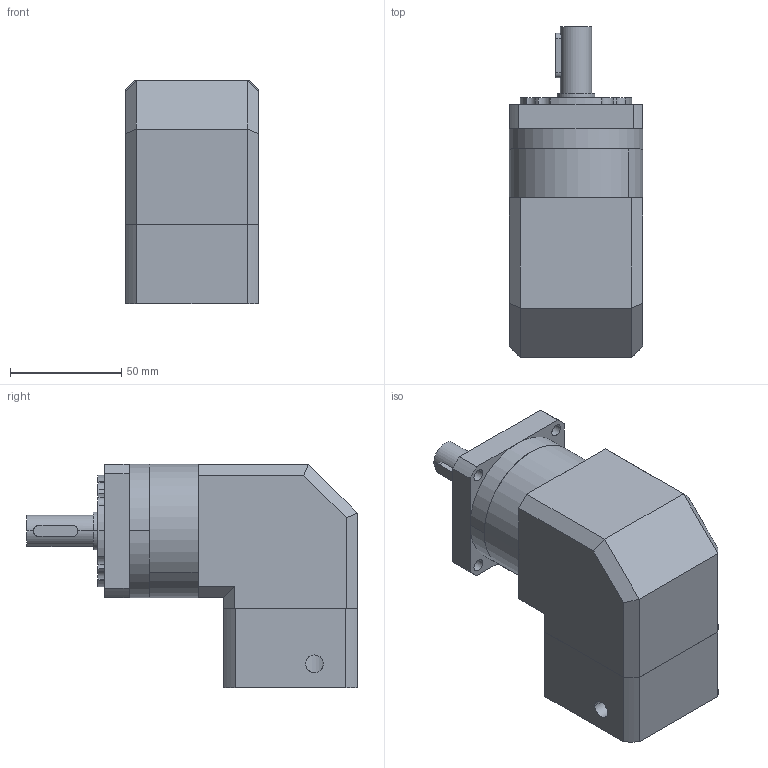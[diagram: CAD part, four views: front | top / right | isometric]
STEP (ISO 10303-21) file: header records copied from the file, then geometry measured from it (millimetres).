
FILE_DESCRIPTION (( 'STEP AP203' ), '1' );
FILE_NAME ('PFZ060-L1-5-60-10x31（配60伺服电机）.STEP', '2020-11-30T02:52:51', ( 'USER-' ), ( 'MS' ), 'SwSTEP 2.0', 'SolidWorks 2018', '' );
FILE_SCHEMA (( 'CONFIG_CONTROL_DESIGN' ));
Length unit declared in the file: millimetre
Products named in the file (9): PVFN60-______^PFZ060-L1(2)_PFZ060-L1; __________-M5__16^PFZ060-L1(2)_PFZ060-L1; PRF60 ___w___D1-70 D2-5.5 D3-14 D4-17 D5-50 L1-30 L2-35 L3-3 A1-60 S1-3 S2-20 S3-5 S4-18 B-5 H-16 C-M5 ____^PFZ060-L1(2)_PFZ060-L1; ______  5x5x20^PFZ060-L1(2)_PFZ060-L1; PVFN60-____-0^PFZ060-L1(2)_PFZ060-L1; PVFN60-____^PFZ060-L1(2)_PFZ060-L1; ________________ 5203_2^PFZ060-L1(2)_PFZ060-L1; PRFN60 _________________^PFZ060-L1(2)_PFZ060-L1; PFZ060-L1-5-60-10x31（配60伺服电机）
Assembly tree (8 placements, depth 2):
  PFZ060-L1-5-60-10x31（配60伺服电机）
    PRF60 ___w___D1-70 D2-5.5 D3-14 D4-17 D5-50 L1-30 L2-35 L3-3 A1-60 S1-3 S2-20 S3-5 S4-18 B-5 H-16 C-M5 ____^PFZ060-L1(2)_PFZ060-L1
    PVFN60-____^PFZ060-L1(2)_PFZ060-L1
    ________________ 5203_2^PFZ060-L1(2)_PFZ060-L1
    PVFN60-______^PFZ060-L1(2)_PFZ060-L1
    __________-M5__16^PFZ060-L1(2)_PFZ060-L1
    ______  5x5x20^PFZ060-L1(2)_PFZ060-L1
    PVFN60-____-0^PFZ060-L1(2)_PFZ060-L1
    PRFN60 _________________^PFZ060-L1(2)_PFZ060-L1
Bounding box: 60 x 148.5 x 100.5 mm (x, y, z)
Volume: 484449.1 mm3; surface area: 99487.3 mm2
Topology: 8 solids, 8 shells, 559 faces, 1657 edges, 1036 vertices
Faces by surface type: cylinder 190, plane 181, torus 84, sphere 80, cone 24
Entity records: 20092 total; most frequent: CARTESIAN_POINT 4900, ORIENTED_EDGE 3038, DIRECTION 3001, EDGE_CURVE 1519, AXIS2_PLACEMENT_3D 1245, VERTEX_POINT 996, CIRCLE 675, EDGE_LOOP 647
